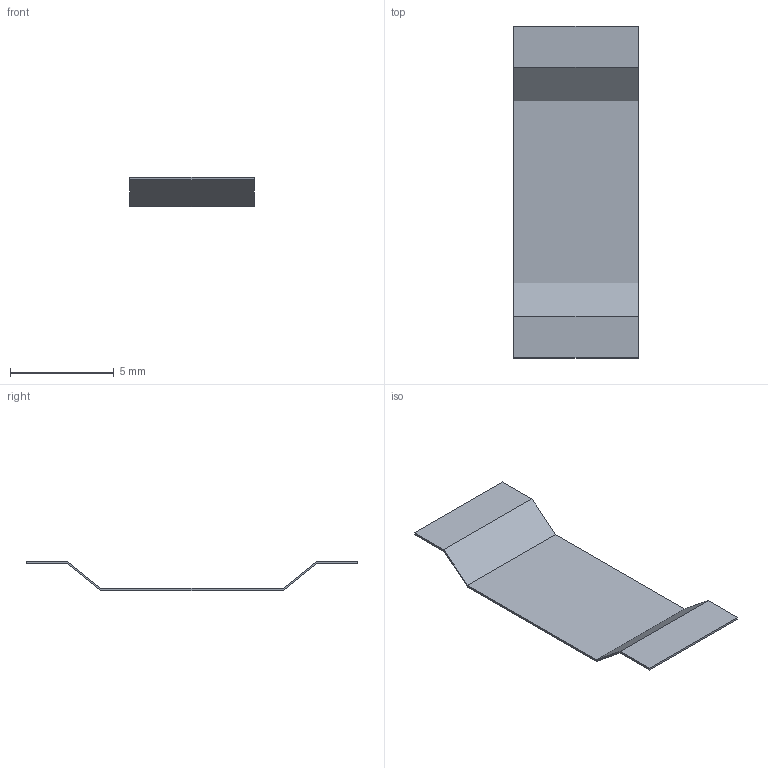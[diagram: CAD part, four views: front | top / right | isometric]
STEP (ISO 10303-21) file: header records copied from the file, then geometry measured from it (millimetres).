
FILE_DESCRIPTION(('Open CASCADE Model'),'2;1');
FILE_NAME('R36_STOCK_MIC_SADDLE_POLYESTER_STRAP_0p10', '2026-09-15T14:21:06',('Author'),('Open CASCADE'), 'Open CASCADE STEP processor 7.9','build123d','Unknown');
FILE_SCHEMA(('AUTOMOTIVE_DESIGN { 1 0 10303 214 1 1 1 1 }'));
Length unit declared in the file: millimetre
Products named in the file (1): R36_STOCK_MIC_SADDLE_POLYESTER_STRAP_0p10
Bounding box: 6 x 16 x 1.4 mm (x, y, z)
Volume: 9.6 mm3; surface area: 207.5 mm2
Topology: 1 solids, 1 shells, 14 faces, 36 edges, 24 vertices
Faces by surface type: plane 14
Entity records: 898 total; most frequent: CARTESIAN_POINT 147, DIRECTION 138, LINE 108, VECTOR 108, ORIENTED_EDGE 72, PCURVE 72, DEFINITIONAL_REPRESENTATION 72, EDGE_CURVE 36
